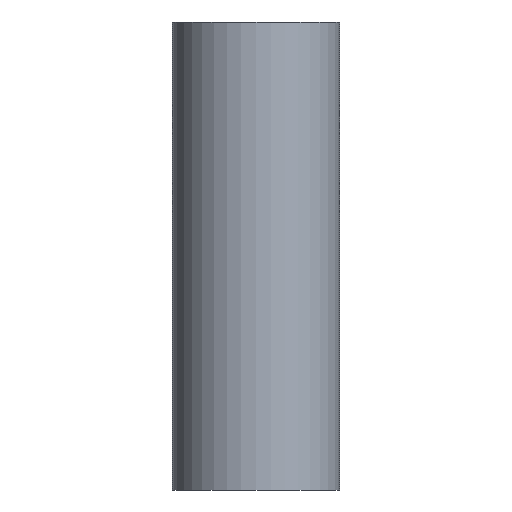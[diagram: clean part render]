
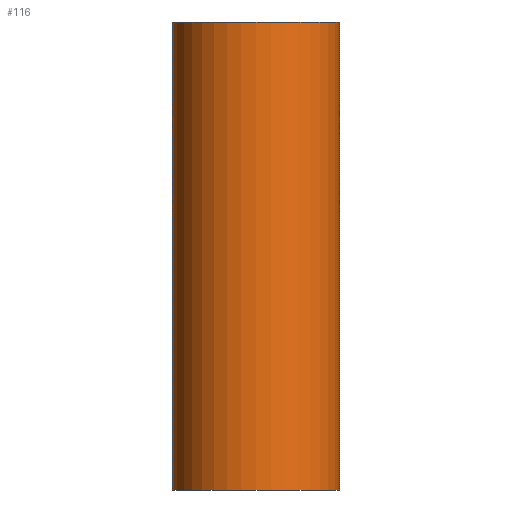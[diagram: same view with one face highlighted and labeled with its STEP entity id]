
A CAD part, left-side view. The second image highlights one B-rep face of the part: STEP entity #116.
In plain terms, the highlighted cylindrical face has radius 37.5 mm (diameter 75 mm), a full revolution.
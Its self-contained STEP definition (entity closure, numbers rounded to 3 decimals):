
#23=FACE_BOUND('',#51,.T.);
#24=FACE_BOUND('',#52,.T.);
#30=CIRCLE('',#151,37.5);
#31=CIRCLE('',#153,37.5);
#37=FACE_OUTER_BOUND('',#50,.T.);
#50=EDGE_LOOP('',(#93));
#51=EDGE_LOOP('',(#94,#95));
#52=EDGE_LOOP('',(#96));
#57=ELLIPSE('',#146,97.992,37.5);
#58=ELLIPSE('',#147,40.59,37.5);
#64=VERTEX_POINT('',#205);
#65=VERTEX_POINT('',#206);
#67=VERTEX_POINT('',#213);
#68=VERTEX_POINT('',#216);
#74=EDGE_CURVE('',#64,#65,#57,.T.);
#75=EDGE_CURVE('',#65,#64,#58,.T.);
#77=EDGE_CURVE('',#67,#67,#30,.T.);
#78=EDGE_CURVE('',#68,#68,#31,.T.);
#93=ORIENTED_EDGE('',*,*,#77,.T.);
#94=ORIENTED_EDGE('',*,*,#75,.T.);
#95=ORIENTED_EDGE('',*,*,#74,.T.);
#96=ORIENTED_EDGE('',*,*,#78,.F.);
#102=CYLINDRICAL_SURFACE('',#152,37.5);
#116=ADVANCED_FACE('',(#37,#23,#24),#102,.T.);
#146=AXIS2_PLACEMENT_3D('',#207,#173,#174);
#147=AXIS2_PLACEMENT_3D('',#208,#175,#176);
#151=AXIS2_PLACEMENT_3D('',#214,#183,#184);
#152=AXIS2_PLACEMENT_3D('',#215,#185,#186);
#153=AXIS2_PLACEMENT_3D('',#217,#187,#188);
#173=DIRECTION('center_axis',(-0.924,0.,0.383));
#174=DIRECTION('ref_axis',(-0.383,0.,-0.924));
#175=DIRECTION('center_axis',(-0.383,0.,-0.924));
#176=DIRECTION('ref_axis',(0.924,0.,-0.383));
#183=DIRECTION('center_axis',(0.,0.,-1.));
#184=DIRECTION('ref_axis',(1.,0.,0.));
#185=DIRECTION('center_axis',(0.,0.,-1.));
#186=DIRECTION('ref_axis',(-1.,0.,0.));
#187=DIRECTION('center_axis',(0.,0.,-1.));
#188=DIRECTION('ref_axis',(1.,0.,0.));
#205=CARTESIAN_POINT('',(0.,-37.5,70.));
#206=CARTESIAN_POINT('',(0.,37.5,70.));
#207=CARTESIAN_POINT('Origin',(0.,0.,70.));
#208=CARTESIAN_POINT('Origin',(0.,0.,70.));
#213=CARTESIAN_POINT('',(-37.5,0.,210.));
#214=CARTESIAN_POINT('Origin',(0.,0.,210.));
#215=CARTESIAN_POINT('Origin',(0.,0.,105.));
#216=CARTESIAN_POINT('',(-37.5,0.,0.));
#217=CARTESIAN_POINT('Origin',(0.,0.,0.));
